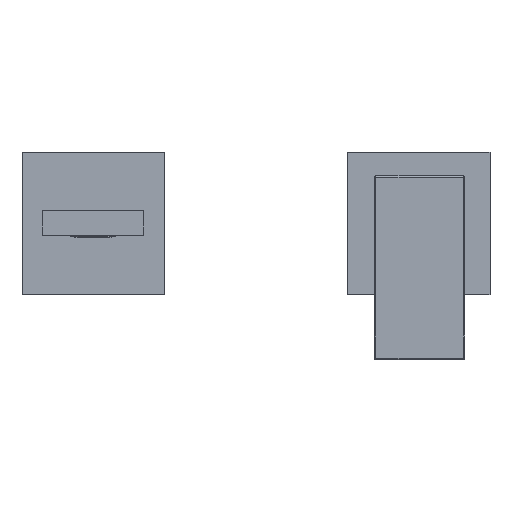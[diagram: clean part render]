
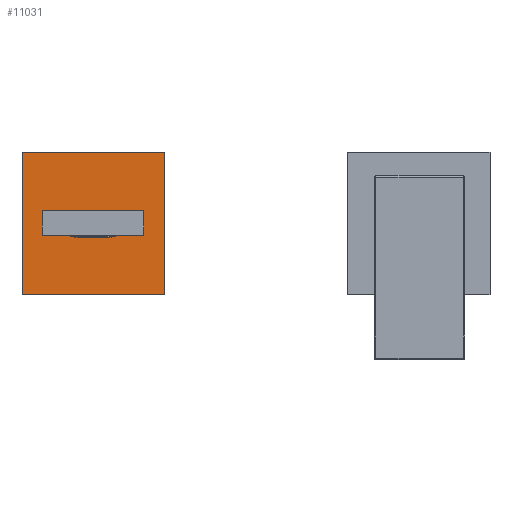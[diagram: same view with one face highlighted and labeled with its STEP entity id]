
A CAD part, top view. The second image highlights one B-rep face of the part: STEP entity #11031.
In plain terms, the highlighted planar face has unit normal (0, 0, 1).
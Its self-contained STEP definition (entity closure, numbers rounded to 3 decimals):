
#216 = VERTEX_POINT ( 'NONE', #4256 ) ;
#2180 = CARTESIAN_POINT ( 'NONE',  ( -35., 35., 2. ) ) ;
#2353 = CARTESIAN_POINT ( 'NONE',  ( 24.955, -5.998, 2. ) ) ;
#2416 = LINE ( 'NONE', #2180, #12567 ) ;
#2723 = CARTESIAN_POINT ( 'NONE',  ( 35., 35., 2. ) ) ;
#2963 = ORIENTED_EDGE ( 'NONE', *, *, #30422, .F. ) ;
#3300 = CARTESIAN_POINT ( 'NONE',  ( 24.955, -5.998, 2. ) ) ;
#3927 = DIRECTION ( 'NONE',  ( -1., 0., 0. ) ) ;
#4256 = CARTESIAN_POINT ( 'NONE',  ( 24.955, 6.002, 2. ) ) ;
#6339 = CARTESIAN_POINT ( 'NONE',  ( 0., 0., 2. ) ) ;
#6527 = VECTOR ( 'NONE', #14162, 1000. ) ;
#6844 = ORIENTED_EDGE ( 'NONE', *, *, #31611, .T. ) ;
#8173 = CARTESIAN_POINT ( 'NONE',  ( 35., -35., 2. ) ) ;
#9367 = VERTEX_POINT ( 'NONE', #2353 ) ;
#10353 = FACE_OUTER_BOUND ( 'NONE', #30620, .T. ) ;
#11031 = ADVANCED_FACE ( 'NONE', ( #10353, #25740 ), #37379, .T. ) ;
#11248 = VERTEX_POINT ( 'NONE', #36816 ) ;
#11959 = CARTESIAN_POINT ( 'NONE',  ( -25.045, 6.002, 2. ) ) ;
#12158 = CARTESIAN_POINT ( 'NONE',  ( -35., 35., 2. ) ) ;
#12166 = CARTESIAN_POINT ( 'NONE',  ( -25.045, 6.002, 2. ) ) ;
#12567 = VECTOR ( 'NONE', #13625, 1000. ) ;
#13625 = DIRECTION ( 'NONE',  ( 0., -1., 0. ) ) ;
#13982 = CARTESIAN_POINT ( 'NONE',  ( 24.955, 6.002, 2. ) ) ;
#14162 = DIRECTION ( 'NONE',  ( 0., 1., 0. ) ) ;
#14464 = ORIENTED_EDGE ( 'NONE', *, *, #35332, .T. ) ;
#14810 = AXIS2_PLACEMENT_3D ( 'NONE', #6339, #18025, #45031 ) ;
#15333 = EDGE_CURVE ( 'NONE', #216, #21183, #34980, .T. ) ;
#18025 = DIRECTION ( 'NONE',  ( 0., 0., 1. ) ) ;
#18297 = VECTOR ( 'NONE', #34098, 1000. ) ;
#18640 = VECTOR ( 'NONE', #23595, 1000. ) ;
#18958 = DIRECTION ( 'NONE',  ( 1., 0., 0. ) ) ;
#19087 = LINE ( 'NONE', #12158, #26335 ) ;
#19424 = ORIENTED_EDGE ( 'NONE', *, *, #24751, .T. ) ;
#20593 = VERTEX_POINT ( 'NONE', #29455 ) ;
#21183 = VERTEX_POINT ( 'NONE', #11959 ) ;
#22024 = CARTESIAN_POINT ( 'NONE',  ( -25.045, -5.998, 2. ) ) ;
#23595 = DIRECTION ( 'NONE',  ( -1., 0., 0. ) ) ;
#24751 = EDGE_CURVE ( 'NONE', #11248, #20593, #19087, .T. ) ;
#24829 = VERTEX_POINT ( 'NONE', #8173 ) ;
#24955 = ORIENTED_EDGE ( 'NONE', *, *, #45289, .F. ) ;
#25150 = LINE ( 'NONE', #2723, #6527 ) ;
#25740 = FACE_BOUND ( 'NONE', #25846, .T. ) ;
#25846 = EDGE_LOOP ( 'NONE', ( #24955, #32645, #34688, #2963 ) ) ;
#26335 = VECTOR ( 'NONE', #3927, 1000. ) ;
#29090 = VERTEX_POINT ( 'NONE', #34953 ) ;
#29455 = CARTESIAN_POINT ( 'NONE',  ( -35., 35., 2. ) ) ;
#29826 = VECTOR ( 'NONE', #33103, 1000. ) ;
#30422 = EDGE_CURVE ( 'NONE', #9367, #216, #47709, .T. ) ;
#30620 = EDGE_LOOP ( 'NONE', ( #14464, #19424, #6844, #44122 ) ) ;
#31611 = EDGE_CURVE ( 'NONE', #20593, #29090, #2416, .T. ) ;
#32645 = ORIENTED_EDGE ( 'NONE', *, *, #44937, .F. ) ;
#33103 = DIRECTION ( 'NONE',  ( 0., 1., 0. ) ) ;
#34098 = DIRECTION ( 'NONE',  ( 1., 0., 0. ) ) ;
#34688 = ORIENTED_EDGE ( 'NONE', *, *, #15333, .F. ) ;
#34953 = CARTESIAN_POINT ( 'NONE',  ( -35., -35., 2. ) ) ;
#34980 = LINE ( 'NONE', #12166, #18640 ) ;
#35332 = EDGE_CURVE ( 'NONE', #24829, #11248, #25150, .T. ) ;
#36413 = LINE ( 'NONE', #22024, #37300 ) ;
#36816 = CARTESIAN_POINT ( 'NONE',  ( 35., 35., 2. ) ) ;
#37300 = VECTOR ( 'NONE', #48510, 1000. ) ;
#37379 = PLANE ( 'NONE',  #14810 ) ;
#38505 = VECTOR ( 'NONE', #18958, 1000. ) ;
#40416 = VERTEX_POINT ( 'NONE', #46866 ) ;
#41065 = CARTESIAN_POINT ( 'NONE',  ( -35., -35., 2. ) ) ;
#41536 = LINE ( 'NONE', #3300, #18297 ) ;
#41810 = LINE ( 'NONE', #41065, #38505 ) ;
#44122 = ORIENTED_EDGE ( 'NONE', *, *, #48584, .T. ) ;
#44937 = EDGE_CURVE ( 'NONE', #21183, #40416, #36413, .T. ) ;
#45031 = DIRECTION ( 'NONE',  ( 1., 0., 0. ) ) ;
#45289 = EDGE_CURVE ( 'NONE', #40416, #9367, #41536, .T. ) ;
#46866 = CARTESIAN_POINT ( 'NONE',  ( -25.045, -5.998, 2. ) ) ;
#47709 = LINE ( 'NONE', #13982, #29826 ) ;
#48510 = DIRECTION ( 'NONE',  ( 0., -1., 0. ) ) ;
#48584 = EDGE_CURVE ( 'NONE', #29090, #24829, #41810, .T. ) ;
